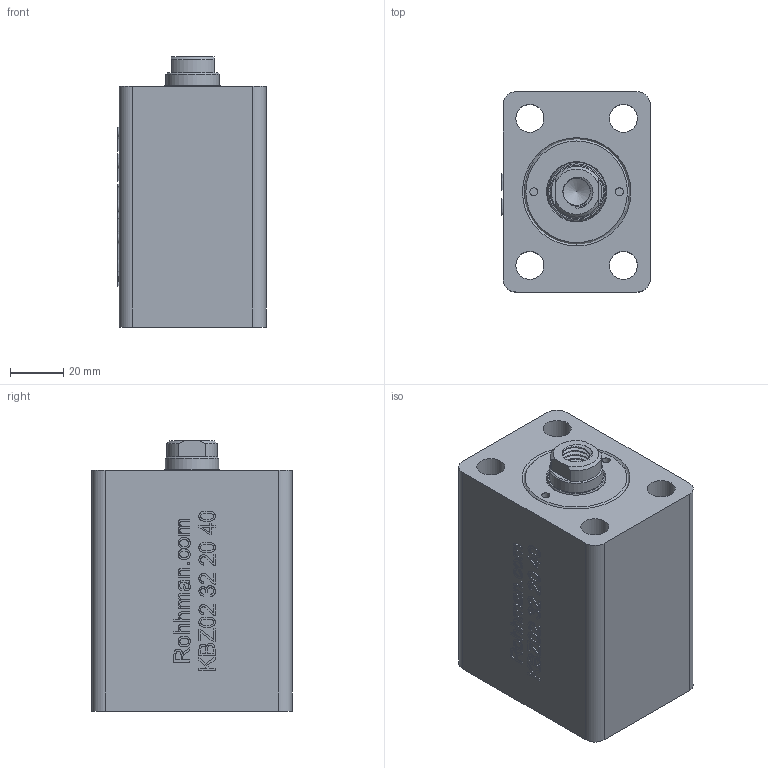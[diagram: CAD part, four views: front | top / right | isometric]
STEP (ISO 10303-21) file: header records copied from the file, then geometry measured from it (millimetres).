
FILE_DESCRIPTION(/* description */ (''),/* implementation_level */ '2;1');
FILE_NAME(/* name */ 'C:/Users/TEKNO/Desktop/KBZ_02_32_20_40.step',/* time_stamp */ '2022-10-02T11:04:44+03:00',/* author */ (''),/* organization */ (''),/* preprocessor_version */ 'ST-DEVELOPER v19',/* originating_system */ 'Autodesk Translation Framework v11.7.0.108',/* authorisation */ '');
FILE_SCHEMA (('AUTOMOTIVE_DESIGN { 1 0 10303 214 3 1 1 }'));
Products named in the file (10): KBZ_02_32_20_40_WEB; KBZ_02_32-20_ON_KAPAK; 20_23_8; Component1; K06-20X25X4_3X6; K22-20X26X3_5; KBZ_02_32_40_GOVDE; Component1_1; 20_K_MIL_40_WEB; Component1_2
Assembly tree (9 placements, depth 4):
  KBZ_02_32_20_40_WEB
    KBZ_02_32-20_ON_KAPAK
      20_23_8
        Component1
      K06-20X25X4_3X6
      K22-20X26X3_5
    KBZ_02_32_40_GOVDE
      Component1_1
    20_K_MIL_40_WEB
      Component1_2
Bounding box: 55.5 x 75 x 101 mm (x, y, z)
Volume: 281915.3 mm3; surface area: 70313.5 mm2
Topology: 6 solids, 6 shells, 748 faces, 2019 edges, 1333 vertices
Faces by surface type: bspline 348, plane 215, cylinder 133, cone 43, torus 9
Full cylindrical faces by diameter (mm): 3 x4, 9.836 x5, 10.274 x7, 10.5 x4, 11.834 x6, 12.226 x8, 13.157 x14, 16 x1, 16.5 x4, 20 x2, 20.4 x1, 20.5 x2, 21.2 x1, 22 x1, 23 x2, 25 x2, 26 x2, 30.4 x1, 32 x1, 35 x2, 35.5 x1, 38.132 x8, 38.526 x8, 39.85 x8, 40.208 x9
Entity records: 43774 total; most frequent: CARTESIAN_POINT 27339, ORIENTED_EDGE 4028, DIRECTION 2152, EDGE_CURVE 2014, VERTEX_POINT 1331, B_SPLINE_CURVE_WITH_KNOTS 902, LINE 902, VECTOR 902
